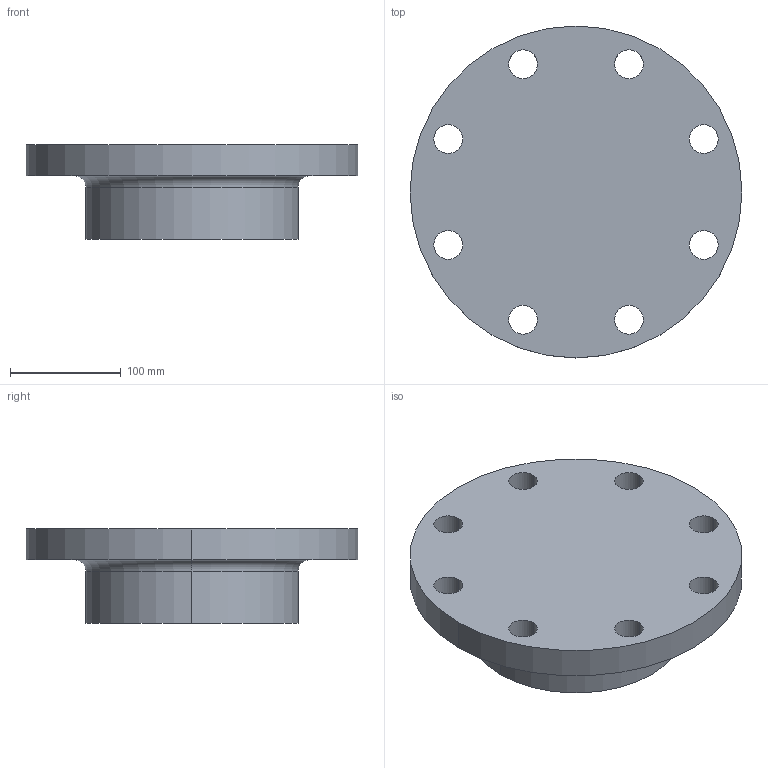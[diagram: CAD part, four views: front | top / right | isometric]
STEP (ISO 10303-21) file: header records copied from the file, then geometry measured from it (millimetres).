
FILE_DESCRIPTION (( 'STEP AP214' ), '1' );
FILE_NAME ('PN40 DN150 Type 21(i) - Type A Face.STEP', '2019-01-04T21:55:46', ( '' ), ( '' ), 'SwSTEP 2.0', 'SolidWorks 2019', '' );
FILE_SCHEMA (( 'AUTOMOTIVE_DESIGN' ));
Length unit declared in the file: millimetre
Products named in the file (1): PN40 DN150 Type 21(i) - Type A Face
Bounding box: 300 x 300 x 85 mm (x, y, z)
Volume: 3523837.2 mm3; surface area: 209400 mm2
Topology: 1 solids, 1 shells, 25 faces, 64 edges, 42 vertices
Faces by surface type: cylinder 20, plane 3, torus 2
Entity records: 852 total; most frequent: DIRECTION 160, CARTESIAN_POINT 132, ORIENTED_EDGE 128, AXIS2_PLACEMENT_3D 70, EDGE_CURVE 64, CIRCLE 44, VERTEX_POINT 42, EDGE_LOOP 42
